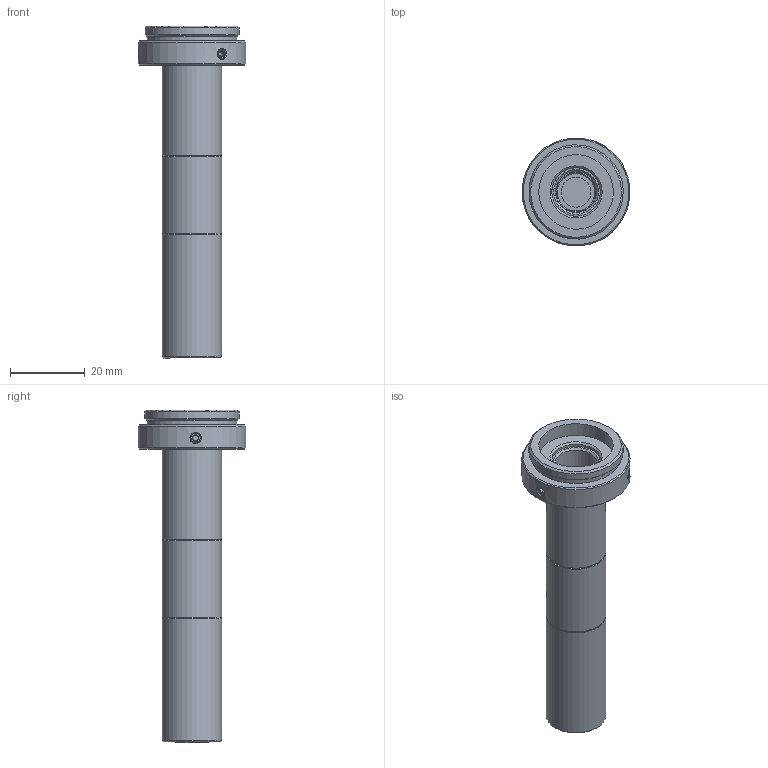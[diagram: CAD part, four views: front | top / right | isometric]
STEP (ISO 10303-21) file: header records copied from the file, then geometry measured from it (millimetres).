
FILE_DESCRIPTION(('STEP AP214'),'1');
FILE_NAME('RTK-2-110.stp','2026-03-17T02:08:05',(' '),(' '),'Spatial InterOp 3D',' ',' ');
FILE_SCHEMA(('AUTOMOTIVE_DESIGN { 1 0 10303 214 1 1 1 1 }'));
Length unit declared in the file: metre
Products named in the file (2): RTK-2-110; Component1
Assembly tree (1 placements, depth 2):
  RTK-2-110
    Component1
Bounding box: 28.97 x 28.93 x 89.12 mm (x, y, z)
Volume: 12023.7 mm3; surface area: 10043.6 mm2
Topology: 1 solids, 1 shells, 137 faces, 317 edges, 209 vertices
Faces by surface type: plane 53, cone 49, cylinder 30, bspline 3, sphere 2
Full cylindrical faces by diameter (mm): 2.5 x3, 8 x1, 10 x2, 11 x1, 12 x3, 13 x2, 13.4 x2, 13.5 x2, 13.7 x1, 13.9 x1, 14.2 x2, 14.7 x1, 16 x3, 20 x1, 24.12 x1, 25.32 x1, 29 x1
Entity records: 6016 total; most frequent: CARTESIAN_POINT 961, DIRECTION 580, ORIENTED_EDGE 466, STYLED_ITEM 370, PRESENTATION_STYLE_ASSIGNMENT 370, COLOUR_RGB 370, AXIS2_PLACEMENT_3D 242, EDGE_CURVE 233
